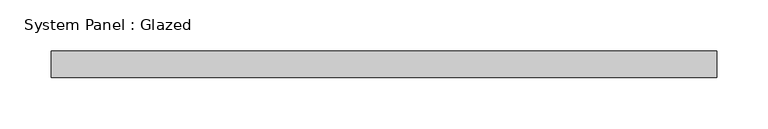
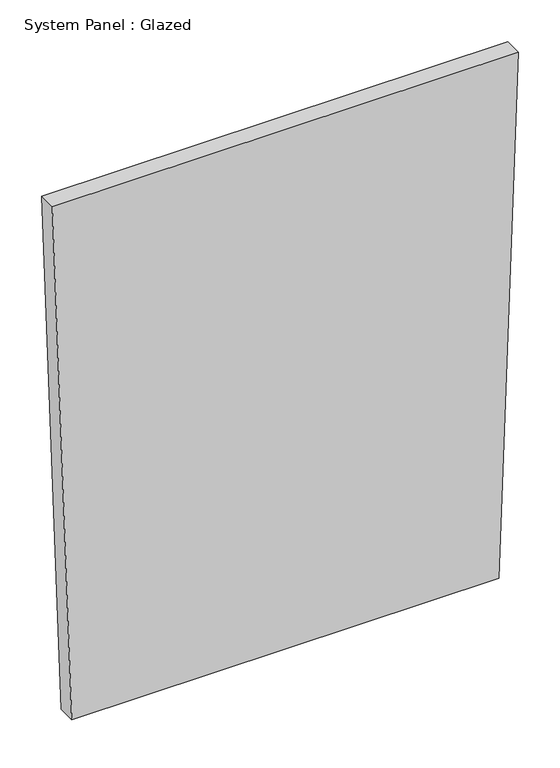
"""IFC4 building model written with IfcOpenShell, lengths in millimetres: plate geometry, System Panel : Glazed."""

from ifc_helpers import new_model, si_unit, frame, origin, place, context, project, spatial, polyline, outline, extrude, source, transform, mapped, element, save


def system_panel_glazed_08770cbb(model_context):
    return source(origin(), model_context, "Body", "SweptSolid", [
        extrude(outline(polyline([(0.0, -296.2678778), (0.0, 296.2678778), (761.5238602, 323.2013213), (761.5238602, -323.2013213), (0.0, -296.2678778)])), frame((0.0, -44.45, 0.0), z_axis=(0.0, 1.0, 0.0), x_axis=(0.0, 0.0, 1.0)), (0.0, 0.0, 1.0), 25.4),
    ])


if __name__ == "__main__":
    model = new_model("IFC4")
    model_context = context("Model", 3, world=origin())
    ifc_project = project(units=[si_unit("LENGTHUNIT", "METRE", prefix="MILLI")], contexts=[model_context])
    site = spatial("IfcSite", under=ifc_project)
    building = spatial("IfcBuilding", under=site)
    placement = place(None, origin())
    system_panel_glazed_shape = system_panel_glazed_08770cbb(model_context)
    element("IfcPlate", 1, ObjectType="System Panel : Glazed", at=placement, inside=building, context=model_context, shape_type="MappedRepresentation", body=[
        mapped(system_panel_glazed_shape, transform((0.0, 0.0, 0.0), x_axis=(1.0, 0.0, 0.0), y_axis=(0.0, 1.0, 0.0), z_axis=(0.0, 0.0, 1.0))),
    ])
    save(model, "model.ifc")
